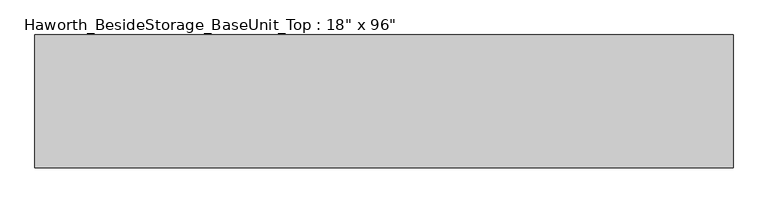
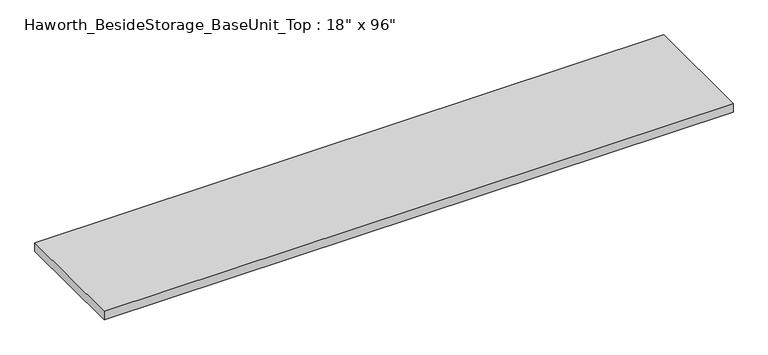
"""IFC4 building model written with IfcOpenShell, lengths in millimetres: furniture geometry."""

from ifc_helpers import new_model, si_unit, frame, origin, place, context, project, spatial, polyline, outline, extrude, source, transform, mapped, element, save


def furniture_adc97c1b(model_context):
    return source(origin(), model_context, "Body", "SweptSolid", [
        extrude(outline(polyline([(1066.8, 203.2), (1066.8, -203.2), (-1066.8, -203.2), (-1066.8, 203.2), (1066.8, 203.2)])), frame((0.0, 0.0, 706.4375), z_axis=(0.0, 0.0, 1.0), x_axis=(1.0, 0.0, 0.0)), (0.0, 0.0, 1.0), 30.1625),
    ])


if __name__ == "__main__":
    model = new_model("IFC4")
    model_context = context("Model", 3, world=origin())
    ifc_project = project(units=[si_unit("LENGTHUNIT", "METRE", prefix="MILLI")], contexts=[model_context])
    site = spatial("IfcSite", under=ifc_project)
    building = spatial("IfcBuilding", under=site)
    placement = place(None, origin())
    furniture_shape = furniture_adc97c1b(model_context)
    element("IfcFurniture", 1, ObjectType="Haworth_BesideStorage_BaseUnit_Top : 18\" x 96\"", at=placement, inside=building, context=model_context, shape_type="MappedRepresentation", body=[
        mapped(furniture_shape, transform((0.0, 0.0, 0.0), x_axis=(1.0, 0.0, 0.0), y_axis=(0.0, 1.0, 0.0), z_axis=(0.0, 0.0, 1.0))),
    ])
    save(model, "model.ifc")
